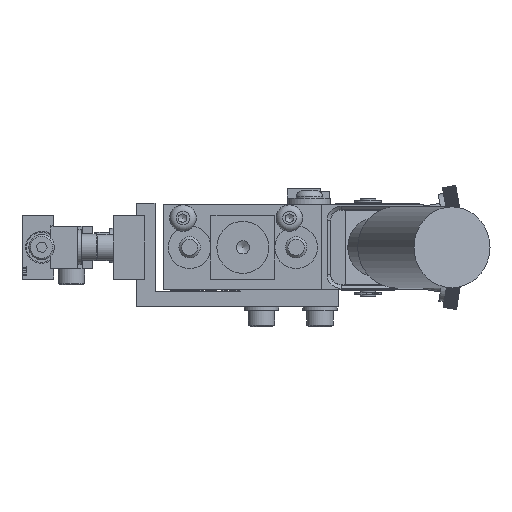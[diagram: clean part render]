
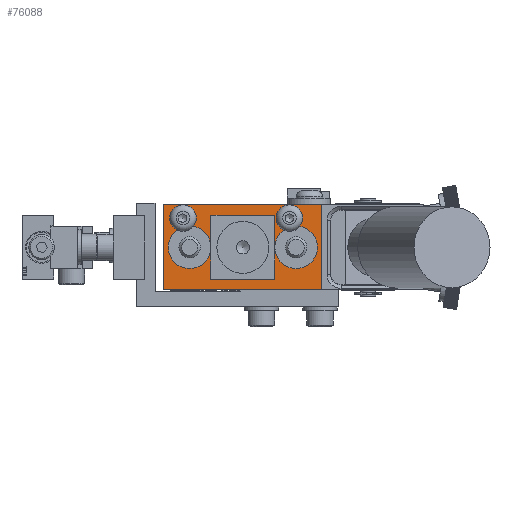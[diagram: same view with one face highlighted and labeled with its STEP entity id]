
A CAD part, left-side view. The second image highlights one B-rep face of the part: STEP entity #76088.
In plain terms, the highlighted planar face has unit normal (-1, 0, 0).
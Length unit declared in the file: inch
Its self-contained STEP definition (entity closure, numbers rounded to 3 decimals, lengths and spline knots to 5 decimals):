
#30009=CARTESIAN_POINT('',(-0.63658,1.54905,1.0));
#30010=VERTEX_POINT('',#30009);
#30017=CARTESIAN_POINT('',(-0.63658,-0.31095,1.0));
#30018=VERTEX_POINT('',#30017);
#30019=CARTESIAN_POINT('',(-0.63658,-0.31095,1.0));
#30020=DIRECTION('',(0.0,1.0,0.0));
#30021=VECTOR('',#30020,1.86);
#30022=LINE('',#30019,#30021);
#30023=EDGE_CURVE('',#30018,#30010,#30022,.T.);
#73963=CARTESIAN_POINT('',(-0.63658,1.54905,0.0));
#73964=VERTEX_POINT('',#73963);
#74011=CARTESIAN_POINT('',(-0.63658,-0.31095,0.0));
#74012=VERTEX_POINT('',#74011);
#74019=CARTESIAN_POINT('',(-0.63658,1.54905,0.0));
#74020=DIRECTION('',(0.0,-1.0,0.0));
#74021=VECTOR('',#74020,1.86);
#74022=LINE('',#74019,#74021);
#74023=EDGE_CURVE('',#73964,#74012,#74022,.T.);
#74565=CARTESIAN_POINT('',(-0.63658,0.87705,0.32));
#74566=VERTEX_POINT('',#74565);
#74567=CARTESIAN_POINT('',(-0.63658,0.87705,0.235));
#74568=DIRECTION('',(1.0,0.0,0.0));
#74569=DIRECTION('',(0.0,0.0,-1.0));
#74570=AXIS2_PLACEMENT_3D('',#74567,#74568,#74569);
#74571=CIRCLE('',#74570,0.085);
#74572=EDGE_CURVE('',#74566,#74566,#74571,.T.);
#74633=CARTESIAN_POINT('',(-0.63658,0.34705,0.85));
#74634=VERTEX_POINT('',#74633);
#74635=CARTESIAN_POINT('',(-0.63658,0.34705,0.765));
#74636=DIRECTION('',(1.0,0.0,0.0));
#74637=DIRECTION('',(0.0,0.0,-1.0));
#74638=AXIS2_PLACEMENT_3D('',#74635,#74636,#74637);
#74639=CIRCLE('',#74638,0.085);
#74640=EDGE_CURVE('',#74634,#74634,#74639,.T.);
#74670=CARTESIAN_POINT('',(-0.63658,1.31505,0.908));
#74671=VERTEX_POINT('',#74670);
#74672=CARTESIAN_POINT('',(-0.63658,1.31505,0.843));
#74673=DIRECTION('',(1.0,0.0,0.0));
#74674=DIRECTION('',(0.0,0.0,1.0));
#74675=AXIS2_PLACEMENT_3D('',#74672,#74673,#74674);
#74676=CIRCLE('',#74675,0.065);
#74677=EDGE_CURVE('',#74671,#74671,#74676,.T.);
#74707=CARTESIAN_POINT('',(-0.63658,0.06505,0.908));
#74708=VERTEX_POINT('',#74707);
#74709=CARTESIAN_POINT('',(-0.63658,0.06505,0.843));
#74710=DIRECTION('',(1.0,0.0,0.0));
#74711=DIRECTION('',(0.0,0.0,1.0));
#74712=AXIS2_PLACEMENT_3D('',#74709,#74710,#74711);
#74713=CIRCLE('',#74712,0.065);
#74714=EDGE_CURVE('',#74708,#74708,#74713,.T.);
#74755=CARTESIAN_POINT('',(-0.63658,0.61205,0.7195));
#74756=VERTEX_POINT('',#74755);
#74757=CARTESIAN_POINT('',(-0.63658,0.61205,0.5));
#74758=DIRECTION('',(1.0,0.0,0.0));
#74759=DIRECTION('',(0.0,0.0,1.0));
#74760=AXIS2_PLACEMENT_3D('',#74757,#74758,#74759);
#74761=CIRCLE('',#74760,0.2195);
#74762=EDGE_CURVE('',#74756,#74756,#74761,.T.);
#74806=CARTESIAN_POINT('',(-0.63658,1.23705,0.75));
#74807=VERTEX_POINT('',#74806);
#74808=CARTESIAN_POINT('',(-0.63658,1.23705,0.5));
#74809=DIRECTION('',(1.0,0.0,0.0));
#74810=DIRECTION('',(0.0,0.0,1.0));
#74811=AXIS2_PLACEMENT_3D('',#74808,#74809,#74810);
#74812=CIRCLE('',#74811,0.25);
#74813=EDGE_CURVE('',#74807,#74807,#74812,.T.);
#74823=CARTESIAN_POINT('',(-0.63658,-0.01295,0.75));
#74824=VERTEX_POINT('',#74823);
#74825=CARTESIAN_POINT('',(-0.63658,-0.01295,0.5));
#74826=DIRECTION('',(1.0,0.0,0.0));
#74827=DIRECTION('',(0.0,0.0,1.0));
#74828=AXIS2_PLACEMENT_3D('',#74825,#74826,#74827);
#74829=CIRCLE('',#74828,0.25);
#74830=EDGE_CURVE('',#74824,#74824,#74829,.T.);
#76040=CARTESIAN_POINT('',(-0.63658,-0.31095,0.0));
#76041=DIRECTION('',(0.0,0.0,1.0));
#76042=VECTOR('',#76041,1.0);
#76043=LINE('',#76040,#76042);
#76044=EDGE_CURVE('',#74012,#30018,#76043,.T.);
#76051=CARTESIAN_POINT('',(-0.63658,-0.31095,0.0));
#76052=DIRECTION('',(-1.0,0.0,0.0));
#76053=DIRECTION('',(0.0,0.0,1.0));
#76054=AXIS2_PLACEMENT_3D('',#76051,#76052,#76053);
#76055=PLANE('',#76054);
#76056=ORIENTED_EDGE('',*,*,#30023,.T.);
#76057=CARTESIAN_POINT('',(-0.63658,1.54905,0.0));
#76058=DIRECTION('',(0.0,0.0,1.0));
#76059=VECTOR('',#76058,1.0);
#76060=LINE('',#76057,#76059);
#76061=EDGE_CURVE('',#73964,#30010,#76060,.T.);
#76062=ORIENTED_EDGE('',*,*,#76061,.F.);
#76063=ORIENTED_EDGE('',*,*,#74023,.T.);
#76064=ORIENTED_EDGE('',*,*,#76044,.T.);
#76065=EDGE_LOOP('',(#76056,#76062,#76063,#76064));
#76066=FACE_OUTER_BOUND('',#76065,.T.);
#76067=ORIENTED_EDGE('',*,*,#74572,.T.);
#76068=EDGE_LOOP('',(#76067));
#76069=FACE_BOUND('',#76068,.T.);
#76070=ORIENTED_EDGE('',*,*,#74640,.T.);
#76071=EDGE_LOOP('',(#76070));
#76072=FACE_BOUND('',#76071,.T.);
#76073=ORIENTED_EDGE('',*,*,#74677,.T.);
#76074=EDGE_LOOP('',(#76073));
#76075=FACE_BOUND('',#76074,.T.);
#76076=ORIENTED_EDGE('',*,*,#74714,.T.);
#76077=EDGE_LOOP('',(#76076));
#76078=FACE_BOUND('',#76077,.T.);
#76079=ORIENTED_EDGE('',*,*,#74762,.T.);
#76080=EDGE_LOOP('',(#76079));
#76081=FACE_BOUND('',#76080,.T.);
#76082=ORIENTED_EDGE('',*,*,#74813,.T.);
#76083=EDGE_LOOP('',(#76082));
#76084=FACE_BOUND('',#76083,.T.);
#76085=ORIENTED_EDGE('',*,*,#74830,.T.);
#76086=EDGE_LOOP('',(#76085));
#76087=FACE_BOUND('',#76086,.T.);
#76088=ADVANCED_FACE('',(#76066,#76069,#76072,#76075,#76078,#76081,#76084,#76087),#76055,.T.);
